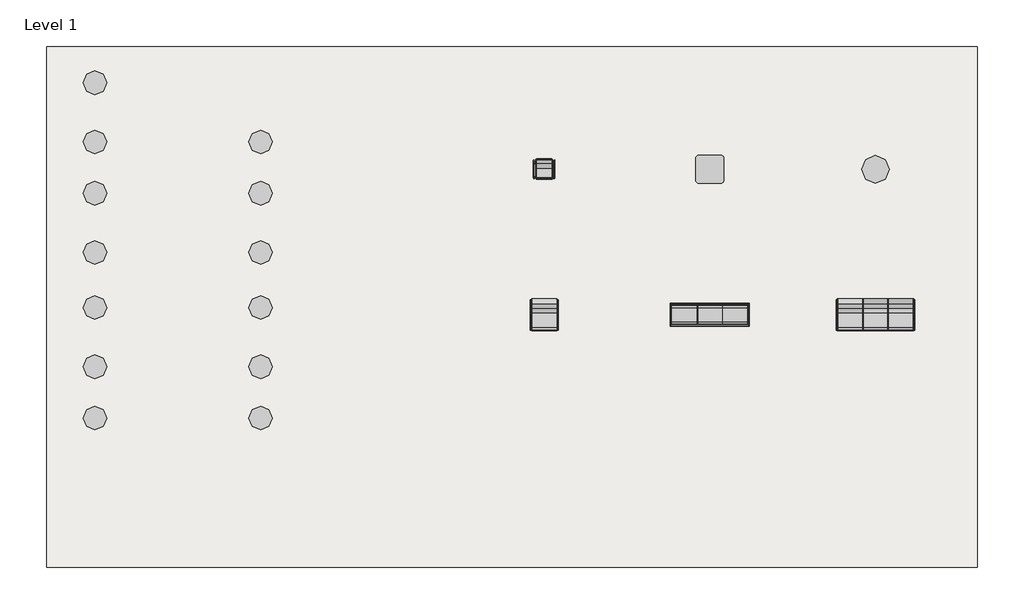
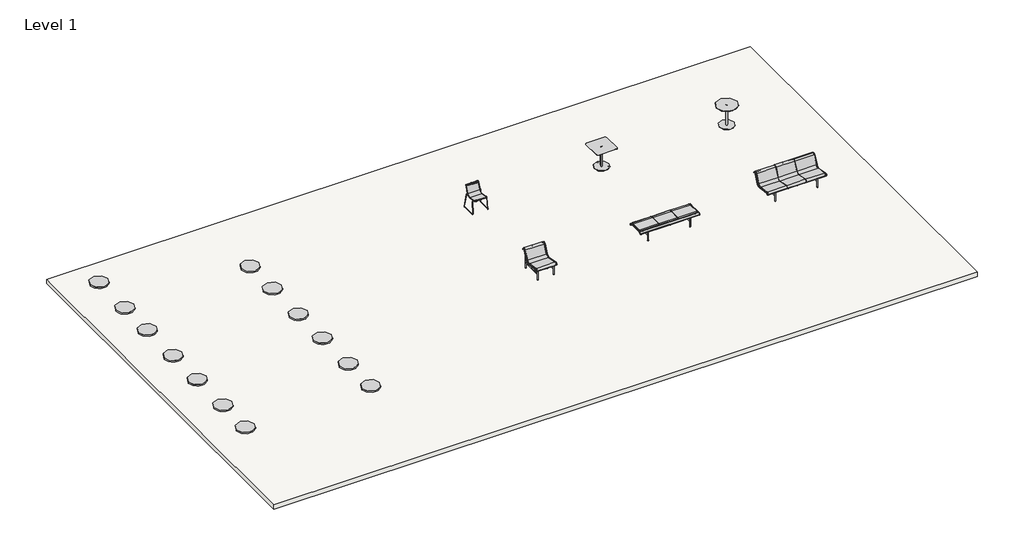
# One storey: 13 proxies, 6 furniture elements, 1 slab.
"""IFC4 building model written with IfcOpenShell, lengths in millimetres."""

from ifc_helpers import new_model, si_unit, frame, origin, place, context, project, spatial, polyline, outline, extrude, transform, mapped, element, save
from components import materialmodel_materialmodel_f1c05be1, furniture_0c5c4a3b, furniture_e99254da, furniture_06264f81, furniture_f1a448c8, furniture_400_4419f9aa, furniture_400_10252353, furniture_400_31e9071a, furniture_400_281b6f21, furniture_400_deac8230, furniture_400_a57a729c, furniture_400_766ddce8

model = new_model("IFC4")

# Units and contexts
model_context = context("Model", 3, world=origin())
ifc_project = project(units=[si_unit("LENGTHUNIT", "METRE", prefix="MILLI")], contexts=[model_context])

# Site, building, storey
site = spatial("IfcSite", under=ifc_project)
building = spatial("IfcBuilding", under=site)
storey = spatial("IfcBuildingStorey", under=building, Name="Level 1", Elevation=0.0)

# Proxies
placement = place(None, origin())
materialmodel_materialmodel_shape = materialmodel_materialmodel_f1c05be1(model_context)
element("IfcBuildingElementProxy", 1, Name="MaterialModel : MaterialModel", ObjectType="MaterialModel : MaterialModel", at=placement, inside=storey, context=model_context, shape_type="MappedRepresentation", body=[
    mapped(materialmodel_materialmodel_shape, transform((-14977.3609562, 9227.6697189, 0.0), x_axis=(1.0, 0.0, 0.0), y_axis=(0.0, 1.0, 0.0), z_axis=(0.0, 0.0, 1.0))),
])
element("IfcBuildingElementProxy", 2, Name="MaterialModel : MaterialModel", ObjectType="MaterialModel : MaterialModel", at=placement, inside=storey, context=model_context, shape_type="MappedRepresentation", body=[
    mapped(materialmodel_materialmodel_shape, transform((-14977.3609562, 7727.6697189, 0.0), x_axis=(1.0, 0.0, 0.0), y_axis=(0.0, 1.0, 0.0), z_axis=(0.0, 0.0, 1.0))),
])
element("IfcBuildingElementProxy", 3, Name="MaterialModel : MaterialModel", ObjectType="MaterialModel : MaterialModel", at=placement, inside=storey, context=model_context, shape_type="MappedRepresentation", body=[
    mapped(materialmodel_materialmodel_shape, transform((-14977.3609562, 6427.6697189, 0.0), x_axis=(1.0, 0.0, 0.0), y_axis=(0.0, 1.0, 0.0), z_axis=(0.0, 0.0, 1.0))),
])
element("IfcBuildingElementProxy", 4, Name="MaterialModel : MaterialModel", ObjectType="MaterialModel : MaterialModel", at=placement, inside=storey, context=model_context, shape_type="MappedRepresentation", body=[
    mapped(materialmodel_materialmodel_shape, transform((-14977.3609562, 4927.6697189, 0.0), x_axis=(1.0, 0.0, 0.0), y_axis=(0.0, 1.0, 0.0), z_axis=(0.0, 0.0, 1.0))),
])
element("IfcBuildingElementProxy", 5, Name="MaterialModel : MaterialModel", ObjectType="MaterialModel : MaterialModel", at=placement, inside=storey, context=model_context, shape_type="MappedRepresentation", body=[
    mapped(materialmodel_materialmodel_shape, transform((-14977.3609562, 3527.6697189, 0.0), x_axis=(1.0, 0.0, 0.0), y_axis=(0.0, 1.0, 0.0), z_axis=(0.0, 0.0, 1.0))),
])
element("IfcBuildingElementProxy", 6, Name="MaterialModel : MaterialModel", ObjectType="MaterialModel : MaterialModel", at=placement, inside=storey, context=model_context, shape_type="MappedRepresentation", body=[
    mapped(materialmodel_materialmodel_shape, transform((-14977.3609562, 2027.6697189, 0.0), x_axis=(1.0, 0.0, 0.0), y_axis=(0.0, 1.0, 0.0), z_axis=(0.0, 0.0, 1.0))),
])
element("IfcBuildingElementProxy", 7, Name="MaterialModel : MaterialModel", ObjectType="MaterialModel : MaterialModel", at=placement, inside=storey, context=model_context, shape_type="MappedRepresentation", body=[
    mapped(materialmodel_materialmodel_shape, transform((-14977.3609562, 727.6697189, 0.0), x_axis=(1.0, 0.0, 0.0), y_axis=(0.0, 1.0, 0.0), z_axis=(0.0, 0.0, 1.0))),
])
element("IfcBuildingElementProxy", 8, Name="MaterialModel : MaterialModel", ObjectType="MaterialModel : MaterialModel", at=placement, inside=storey, context=model_context, shape_type="MappedRepresentation", body=[
    mapped(materialmodel_materialmodel_shape, transform((-10777.3609562, 7727.6697189, 0.0), x_axis=(1.0, 0.0, 0.0), y_axis=(0.0, 1.0, 0.0), z_axis=(0.0, 0.0, 1.0))),
])
element("IfcBuildingElementProxy", 9, Name="MaterialModel : MaterialModel", ObjectType="MaterialModel : MaterialModel", at=placement, inside=storey, context=model_context, shape_type="MappedRepresentation", body=[
    mapped(materialmodel_materialmodel_shape, transform((-10777.3609562, 6427.6697189, 0.0), x_axis=(1.0, 0.0, 0.0), y_axis=(0.0, 1.0, 0.0), z_axis=(0.0, 0.0, 1.0))),
])
element("IfcBuildingElementProxy", 10, Name="MaterialModel : MaterialModel", ObjectType="MaterialModel : MaterialModel", at=placement, inside=storey, context=model_context, shape_type="MappedRepresentation", body=[
    mapped(materialmodel_materialmodel_shape, transform((-10777.3609562, 4927.6697189, 0.0), x_axis=(1.0, 0.0, 0.0), y_axis=(0.0, 1.0, 0.0), z_axis=(0.0, 0.0, 1.0))),
])
element("IfcBuildingElementProxy", 11, Name="MaterialModel : MaterialModel", ObjectType="MaterialModel : MaterialModel", at=placement, inside=storey, context=model_context, shape_type="MappedRepresentation", body=[
    mapped(materialmodel_materialmodel_shape, transform((-10777.3609562, 3527.6697189, 0.0), x_axis=(1.0, 0.0, 0.0), y_axis=(0.0, 1.0, 0.0), z_axis=(0.0, 0.0, 1.0))),
])
element("IfcBuildingElementProxy", 12, Name="MaterialModel : MaterialModel", ObjectType="MaterialModel : MaterialModel", at=placement, inside=storey, context=model_context, shape_type="MappedRepresentation", body=[
    mapped(materialmodel_materialmodel_shape, transform((-10777.3609562, 2027.6697189, 0.0), x_axis=(1.0, 0.0, 0.0), y_axis=(0.0, 1.0, 0.0), z_axis=(0.0, 0.0, 1.0))),
])
element("IfcBuildingElementProxy", 13, Name="MaterialModel : MaterialModel", ObjectType="MaterialModel : MaterialModel", at=placement, inside=storey, context=model_context, shape_type="MappedRepresentation", body=[
    mapped(materialmodel_materialmodel_shape, transform((-10777.3609562, 727.6697189, 0.0), x_axis=(1.0, 0.0, 0.0), y_axis=(0.0, 1.0, 0.0), z_axis=(0.0, 0.0, 1.0))),
])

# Furniture
furniture_shape = furniture_0c5c4a3b(model_context)
element("IfcFurniture", 14, ObjectType="Vestre - Munch - 5132 : Vestre - Munch - 5132", at=placement, inside=storey, context=model_context, shape_type="MappedRepresentation", body=[
    mapped(furniture_shape, transform((4809.618228, 7034.8072375, 0.0), x_axis=(1.0, 0.0, 0.0), y_axis=(0.0, 1.0, 0.0), z_axis=(0.0, 0.0, 1.0))),
])
furniture_2_shape = furniture_e99254da(model_context)
element("IfcFurniture", 15, ObjectType="Vestre - Munch - 5134 : Vestre - Munch - 5134", at=placement, inside=storey, context=model_context, shape_type="MappedRepresentation", body=[
    mapped(furniture_2_shape, transform((609.618228, 7034.8072375, 0.0), x_axis=(1.0, 0.0, 0.0), y_axis=(0.0, 1.0, 0.0), z_axis=(0.0, 0.0, 1.0))),
])
furniture_3_shape = furniture_06264f81(model_context)
furniture_4_shape = furniture_f1a448c8(model_context)
element("IfcFurniture", 16, ObjectType="Vestre - Munch - 5113 : Vestre - Munch - 5113", at=placement, inside=storey, context=model_context, shape_type="MappedRepresentation", body=[
    mapped(furniture_3_shape, transform((-3590.381772, 7034.8072375, 0.0), x_axis=(1.0, 0.0, 0.0), y_axis=(0.0, 1.0, 0.0), z_axis=(0.0, 0.0, 1.0))),
    mapped(furniture_4_shape, transform((-3590.381772, 7034.8072375, 0.0), x_axis=(1.0, 0.0, 0.0), y_axis=(0.0, 1.0, 0.0), z_axis=(0.0, 0.0, 1.0))),
])
furniture_400_shape = furniture_400_4419f9aa(model_context)
furniture_400_2_shape = furniture_400_10252353(model_context)
element("IfcFurniture", 17, ObjectType="Vestre - Munch - 5166 : 400", at=placement, inside=storey, context=model_context, shape_type="MappedRepresentation", body=[
    mapped(furniture_400_shape, transform((-3590.381772, 3345.8876594, 0.0), x_axis=(1.0, 0.0, 0.0), y_axis=(0.0, 1.0, 0.0), z_axis=(0.0, 0.0, 1.0))),
    mapped(furniture_400_2_shape, transform((-3590.381772, 3345.8876594, 0.0), x_axis=(1.0, 0.0, 0.0), y_axis=(0.0, 1.0, 0.0), z_axis=(0.0, 0.0, 1.0))),
])
furniture_400_3_shape = furniture_400_31e9071a(model_context)
furniture_400_4_shape = furniture_400_281b6f21(model_context)
furniture_400_5_shape = furniture_400_deac8230(model_context)
element("IfcFurniture", 18, ObjectType="Vestre - Munch - 5106 : 400", at=placement, inside=storey, context=model_context, shape_type="MappedRepresentation", body=[
    mapped(furniture_400_3_shape, transform((609.618228, 3345.8876594, 0.0), x_axis=(1.0, 0.0, 0.0), y_axis=(0.0, 1.0, 0.0), z_axis=(0.0, 0.0, 1.0))),
    mapped(furniture_400_4_shape, transform((609.618228, 3345.8876594, 0.0), x_axis=(1.0, 0.0, 0.0), y_axis=(0.0, 1.0, 0.0), z_axis=(0.0, 0.0, 1.0))),
    mapped(furniture_400_5_shape, transform((609.618228, 3345.8876594, 0.0), x_axis=(1.0, 0.0, 0.0), y_axis=(0.0, 1.0, 0.0), z_axis=(0.0, 0.0, 1.0))),
])
furniture_400_6_shape = furniture_400_a57a729c(model_context)
furniture_400_7_shape = furniture_400_766ddce8(model_context)
element("IfcFurniture", 19, ObjectType="Vestre - Munch - 5116 : 400", at=placement, inside=storey, context=model_context, shape_type="MappedRepresentation", body=[
    mapped(furniture_400_6_shape, transform((4809.618228, 3345.8876594, 0.0), x_axis=(1.0, 0.0, 0.0), y_axis=(0.0, 1.0, 0.0), z_axis=(0.0, 0.0, 1.0))),
    mapped(furniture_400_7_shape, transform((4809.618228, 3345.8876594, 0.0), x_axis=(1.0, 0.0, 0.0), y_axis=(0.0, 1.0, 0.0), z_axis=(0.0, 0.0, 1.0))),
])

# Slab
element("IfcSlab", 20, ObjectType="Generic 150mm", at=placement, inside=storey, context=model_context, shape_type="SweptSolid", body=[
    extrude(outline(polyline([(7395.204963, 10146.0981081), (7395.204963, -3053.9018919), (-16204.795037, -3053.9018919), (-16204.795037, 10146.0981081), (7395.204963, 10146.0981081)])), frame((0.0, 0.0, -150.0), z_axis=(0.0, 0.0, 1.0), x_axis=(1.0, 0.0, 0.0)), (0.0, 0.0, 1.0), 150.0),
])

save(model, "model.ifc")
